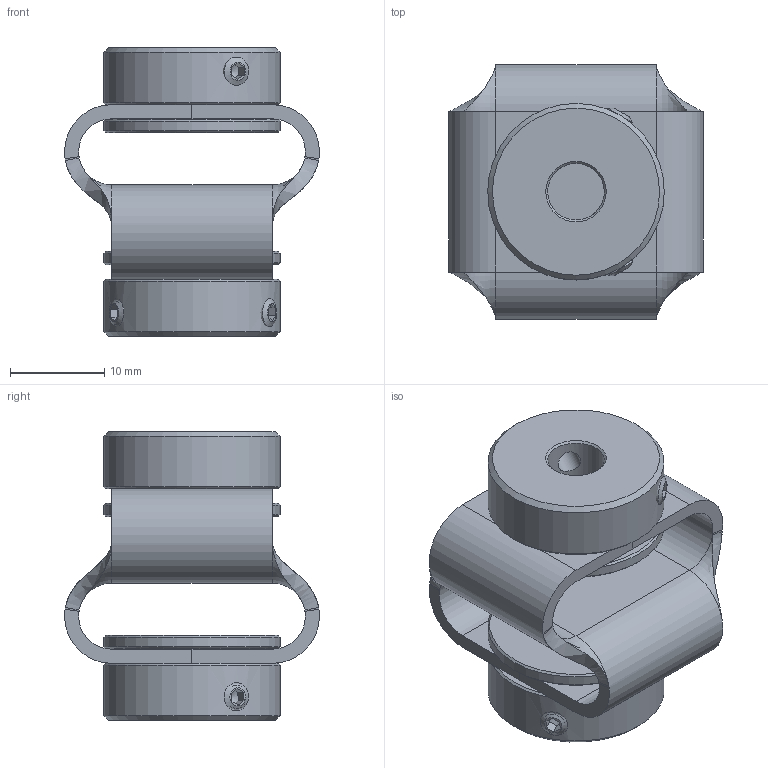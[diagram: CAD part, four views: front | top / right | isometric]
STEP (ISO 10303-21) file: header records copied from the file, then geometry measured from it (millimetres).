
FILE_DESCRIPTION(/* description */ ('Stern '),/* implementation_level */ '2;1');
FILE_NAME(/* name */ 'Z:\ABP-Antriebstechnik\Entwicklung-3D\Paguflex\DKPSF\DKPSF2928 06 08.stp',/* time_stamp */ '2024-03-11T12:54:06+01:00',/* author */ ('christian.fehrenbach'),/* organization */ (''),/* preprocessor_version */ 'ST-DEVELOPER v16.1',/* originating_system */ 'Autodesk Inventor 2016',/* authorisation */ '');
FILE_SCHEMA (('AUTOMOTIVE_DESIGN { 1 0 10303 214 3 1 1 }'));
Length unit declared in the file: millimetre
Products named in the file (5): Stern DKPSF2928 gebogen; Schraubnabe 1909 06; Schraubnabe 1909 08; ISO 4029 - M3 x 4 - ISO; DKPSF2928 06 08
Assembly tree (7 placements, depth 2):
  DKPSF2928 06 08
    Stern DKPSF2928 gebogen
    Schraubnabe 1909 06
    Schraubnabe 1909 08
    ISO 4029 - M3 x 4 - ISO  x4
Bounding box: 27 x 27 x 30.6 mm (x, y, z)
Volume: 6017.2 mm3; surface area: 6597.5 mm2
Topology: 7 solids, 11 shells, 162 faces, 348 edges, 198 vertices
Faces by surface type: plane 84, cylinder 30, cone 28, bspline 12, torus 8
Full cylindrical faces by diameter (mm): 2.459 x4, 3 x4, 6 x1, 8 x1, 12.5 x2, 14 x2, 18.7 x4
Entity records: 3475 total; most frequent: CARTESIAN_POINT 1156, DIRECTION 458, ORIENTED_EDGE 416, EDGE_CURVE 200, AXIS2_PLACEMENT_3D 190, EDGE_LOOP 156, VERTEX_POINT 132, FACE_OUTER_BOUND 108
